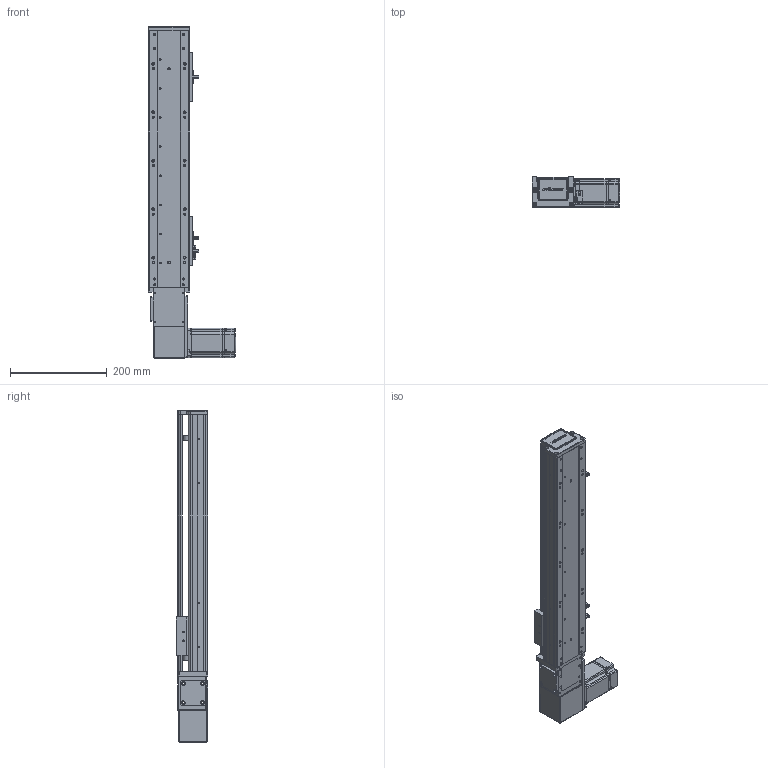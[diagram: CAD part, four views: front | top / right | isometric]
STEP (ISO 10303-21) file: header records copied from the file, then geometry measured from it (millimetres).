
FILE_DESCRIPTION (( 'STEP AP203' ), '1' );
FILE_NAME ('RY80-T-300-RK.SLDASM_350.step', '2021-03-01T02:06:08', ( '盈信电脑' ), ( '东莞市道滘镇水果街19号' ), 'SwSTEP 2.0', 'SolidWorks 2012', '' );
FILE_SCHEMA (( 'CONFIG_CONTROL_DESIGN' ));
Length unit declared in the file: millimetre
Products named in the file (20): RY80-T-300-RK.SLDASM_350; 滅袉蝶18-10; RY100-T粣創揤踡裔; RY80-T肮祭謫俋欶; RY80-T粣創揤踡輸; RY80-T翋肮祭謫裔啣; RY80-T-M4蹟翐; RY80-T-翋肮祭謫釱; RY80-T肮祭湍揤輸2; RY80-T肮祭湍揤輸1; RY80-T萇儂假蚾啣; RY80俋离覜茼え; 1; 侂狟200W萇儂; 672嫖萇羲壽假蚾釱; 覜茼ん672; RY80-T綴裔啣; RY80-T-300-RK倰第奻裔啣_350; RY80-T-300-RK倰第菁釱_350; RY80-T肮祭謫臏賑輸
Assembly tree (25 placements, depth 3):
  RY80-T-300-RK.SLDASM_350
    RY80-T-300-RK倰第菁釱_350
    RY80-T肮祭謫臏賑輸
    RY80-T-300-RK倰第奻裔啣_350
    RY80-T綴裔啣
    672嫖萇羲壽假蚾釱  x2
    覜茼ん672  x3
    RY80俋离覜茼え
    侂狟200W萇儂
      1
    RY80-T-翋肮祭謫釱
    RY80-T萇儂假蚾啣
    RY80-T肮祭湍揤輸1
    RY80-T肮祭湍揤輸2
    RY80-T粣創揤踡輸
    RY80-T-M4蹟翐  x2
    RY80-T翋肮祭謫裔啣  x2
    RY80-T肮祭謫俋欶
    滅袉蝶18-10  x2
    RY100-T粣創揤踡裔
Bounding box: 180 x 65 x 685 mm (x, y, z)
Volume: 1350571.2 mm3; surface area: 536899.4 mm2
Topology: 24 solids, 24 shells, 2399 faces, 6582 edges, 4275 vertices
Faces by surface type: plane 1316, cylinder 880, cone 147, bspline 56
Entity records: 74462 total; most frequent: CARTESIAN_POINT 17493, ORIENTED_EDGE 11608, DIRECTION 11018, EDGE_CURVE 5804, VERTEX_POINT 3816, AXIS2_PLACEMENT_3D 3681, LINE 3656, VECTOR 3656
